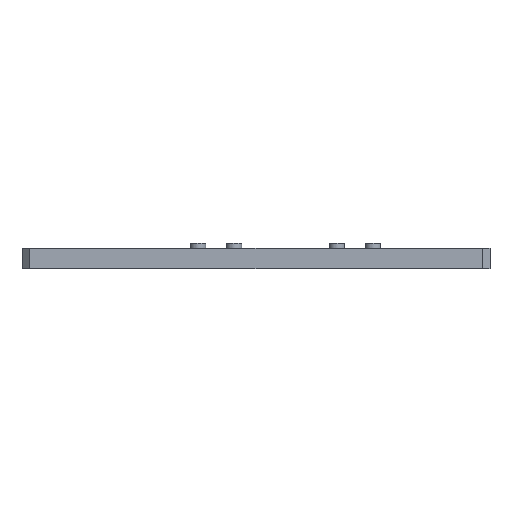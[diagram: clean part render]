
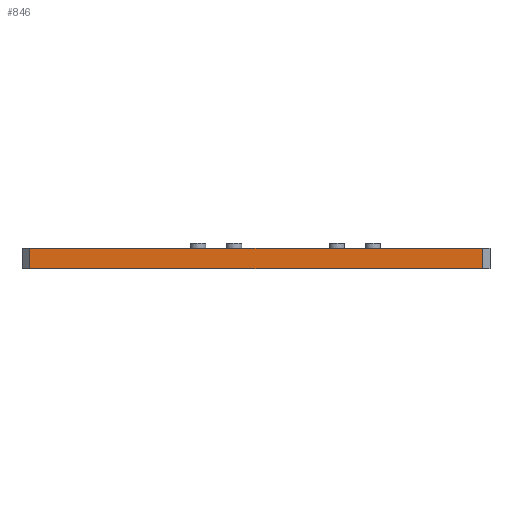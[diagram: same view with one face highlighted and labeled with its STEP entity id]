
A CAD part, front view. The second image highlights one B-rep face of the part: STEP entity #846.
In plain terms, the highlighted planar face has unit normal (0, -1, 0).
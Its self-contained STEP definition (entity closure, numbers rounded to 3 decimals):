
#7 = LINE ( 'NONE', #137, #1136 ) ;
#94 = LINE ( 'NONE', #424, #801 ) ;
#137 = CARTESIAN_POINT ( 'NONE',  ( -98., -95., 8. ) ) ;
#239 = CARTESIAN_POINT ( 'NONE',  ( -98., -95., 8. ) ) ;
#240 = CARTESIAN_POINT ( 'NONE',  ( 78., -95., 0. ) ) ;
#246 = CARTESIAN_POINT ( 'NONE',  ( -98., -95., 8. ) ) ;
#247 = EDGE_CURVE ( 'NONE', #468, #1409, #7, .T. ) ;
#353 = DIRECTION ( 'NONE',  ( 0., 0., 1. ) ) ;
#360 = EDGE_LOOP ( 'NONE', ( #1069, #1554, #874, #922 ) ) ;
#421 = VERTEX_POINT ( 'NONE', #240 ) ;
#424 = CARTESIAN_POINT ( 'NONE',  ( -98., -95., 0. ) ) ;
#468 = VERTEX_POINT ( 'NONE', #1754 ) ;
#496 = FACE_OUTER_BOUND ( 'NONE', #360, .T. ) ;
#571 = DIRECTION ( 'NONE',  ( 0., 0., -1. ) ) ;
#607 = EDGE_CURVE ( 'NONE', #1409, #421, #1827, .T. ) ;
#684 = AXIS2_PLACEMENT_3D ( 'NONE', #239, #1694, #353 ) ;
#801 = VECTOR ( 'NONE', #1887, 1000. ) ;
#803 = PLANE ( 'NONE',  #684 ) ;
#846 = ADVANCED_FACE ( 'NONE', ( #496 ), #803, .F. ) ;
#874 = ORIENTED_EDGE ( 'NONE', *, *, #247, .F. ) ;
#922 = ORIENTED_EDGE ( 'NONE', *, *, #1835, .T. ) ;
#932 = CARTESIAN_POINT ( 'NONE',  ( 78., -95., 8. ) ) ;
#1069 = ORIENTED_EDGE ( 'NONE', *, *, #1863, .T. ) ;
#1136 = VECTOR ( 'NONE', #1940, 1000. ) ;
#1186 = VECTOR ( 'NONE', #1800, 1000. ) ;
#1409 = VERTEX_POINT ( 'NONE', #1458 ) ;
#1458 = CARTESIAN_POINT ( 'NONE',  ( 78., -95., 8. ) ) ;
#1496 = VERTEX_POINT ( 'NONE', #1527 ) ;
#1527 = CARTESIAN_POINT ( 'NONE',  ( -98., -95., 0. ) ) ;
#1554 = ORIENTED_EDGE ( 'NONE', *, *, #607, .F. ) ;
#1694 = DIRECTION ( 'NONE',  ( 0., 1., 0. ) ) ;
#1739 = LINE ( 'NONE', #246, #1899 ) ;
#1754 = CARTESIAN_POINT ( 'NONE',  ( -98., -95., 8. ) ) ;
#1800 = DIRECTION ( 'NONE',  ( 0., 0., -1. ) ) ;
#1827 = LINE ( 'NONE', #932, #1186 ) ;
#1835 = EDGE_CURVE ( 'NONE', #468, #1496, #1739, .T. ) ;
#1863 = EDGE_CURVE ( 'NONE', #1496, #421, #94, .T. ) ;
#1887 = DIRECTION ( 'NONE',  ( 1., 0., 0. ) ) ;
#1899 = VECTOR ( 'NONE', #571, 1000. ) ;
#1940 = DIRECTION ( 'NONE',  ( 1., 0., 0. ) ) ;
